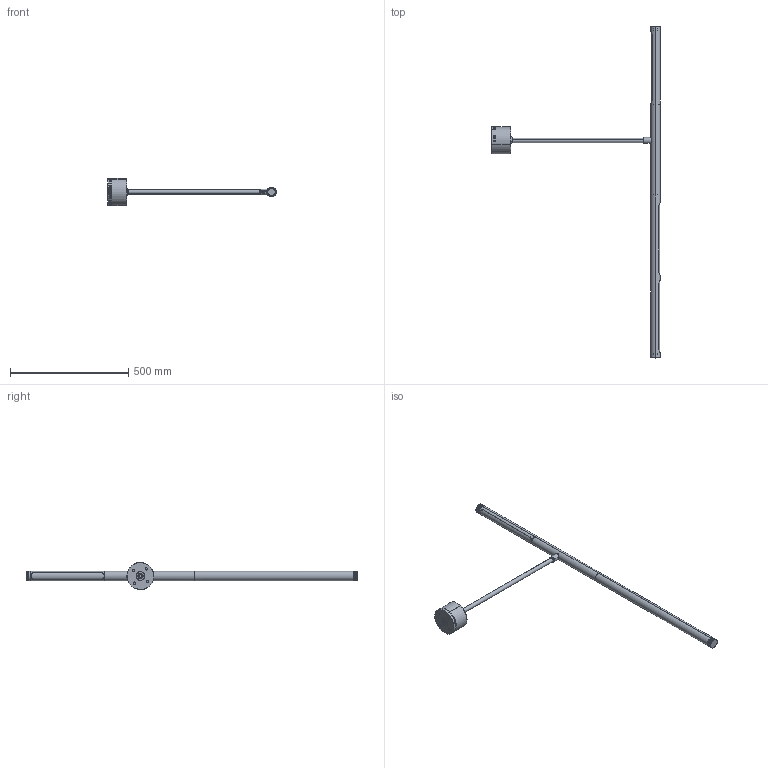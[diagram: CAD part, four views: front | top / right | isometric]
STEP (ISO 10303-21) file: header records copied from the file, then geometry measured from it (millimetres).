
FILE_DESCRIPTION (( 'STEP AP214' ), '1' );
FILE_NAME ('Assem CEILV3.STEP', '2019-02-21T05:39:43', ( '' ), ( '' ), 'SwSTEP 2.0', 'SolidWorks 2018', '' );
FILE_SCHEMA (( 'AUTOMOTIVE_DESIGN' ));
Length unit declared in the file: millimetre
Products named in the file (1): Assem CEILV3
Bounding box: 713.4 x 1406 x 114.99 mm (x, y, z)
Volume: 946399.2 mm3; surface area: 683875.2 mm2
Topology: 19 solids, 19 shells, 812 faces, 2164 edges, 1427 vertices
Faces by surface type: cylinder 370, plane 263, bspline 154, torus 22, cone 3
Entity records: 263026 total; most frequent: CARTESIAN_POINT 236852, ORIENTED_EDGE 4328, DIRECTION 2596, EDGE_CURVE 2164, VERTEX_POINT 1427, EDGE_LOOP 887, AXIS2_PLACEMENT_3D 871, LINE 854
